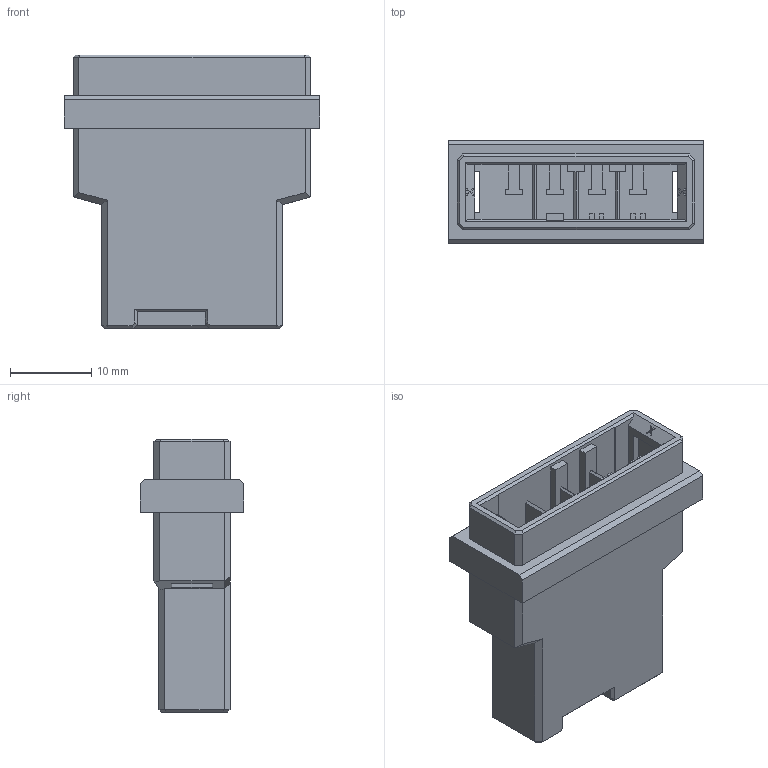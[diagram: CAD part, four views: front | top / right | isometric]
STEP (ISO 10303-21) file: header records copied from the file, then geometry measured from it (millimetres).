
FILE_DESCRIPTION (( 'STEP AP203' ), '1' );
FILE_NAME ('DK-3200S-04F.STEP', '2024-04-18T08:16:18', ( '' ), ( '' ), 'SwSTEP 2.0', 'SolidWorks 2018', '' );
FILE_SCHEMA (( 'CONFIG_CONTROL_DESIGN' ));
Length unit declared in the file: millimetre
Products named in the file (1): DK-3200S-04F
Bounding box: 31.4 x 12.7 x 33.7 mm (x, y, z)
Volume: 5457.2 mm3; surface area: 5001.2 mm2
Topology: 1 solids, 1 shells, 653 faces, 1798 edges, 1182 vertices
Faces by surface type: plane 491, bspline 158, cylinder 4
Entity records: 25001 total; most frequent: CARTESIAN_POINT 9436, ORIENTED_EDGE 3596, DIRECTION 2462, EDGE_CURVE 1798, LINE 1454, VECTOR 1454, VERTEX_POINT 1182, EDGE_LOOP 692
